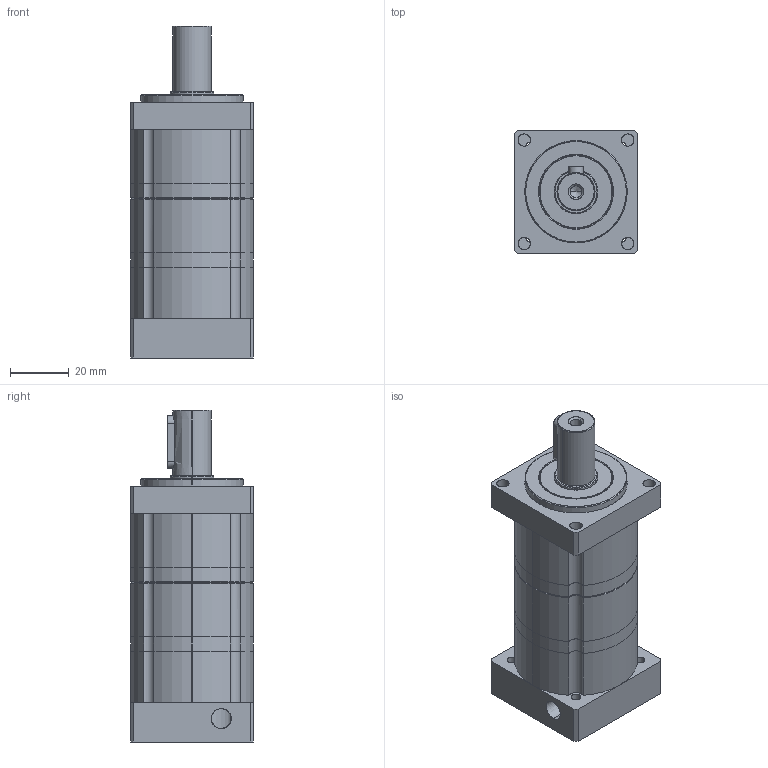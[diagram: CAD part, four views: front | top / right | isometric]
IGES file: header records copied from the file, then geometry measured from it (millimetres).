
Start section: SolidWorks IGES file using analytic representation for surfaces
Global section: file name: Z:\CAD Files\Gearboxes\S-Gearboxes\LX-040-025\LX-042-025-Rev1.IGS; native system: SolidWorks 2014; preprocessor: SolidWorks 2014; author: RENDER; date: 140627.135951; units: millimetre
Bounding box: 42 x 42 x 113.5 mm (x, y, z)
Surface area: 38296.5 mm2 (no closed solid volume)
Topology: 0 solids, 0 shells, 216 faces, 3876 edges, 3874 vertices
Faces by surface type: revolution 170, bspline 46
